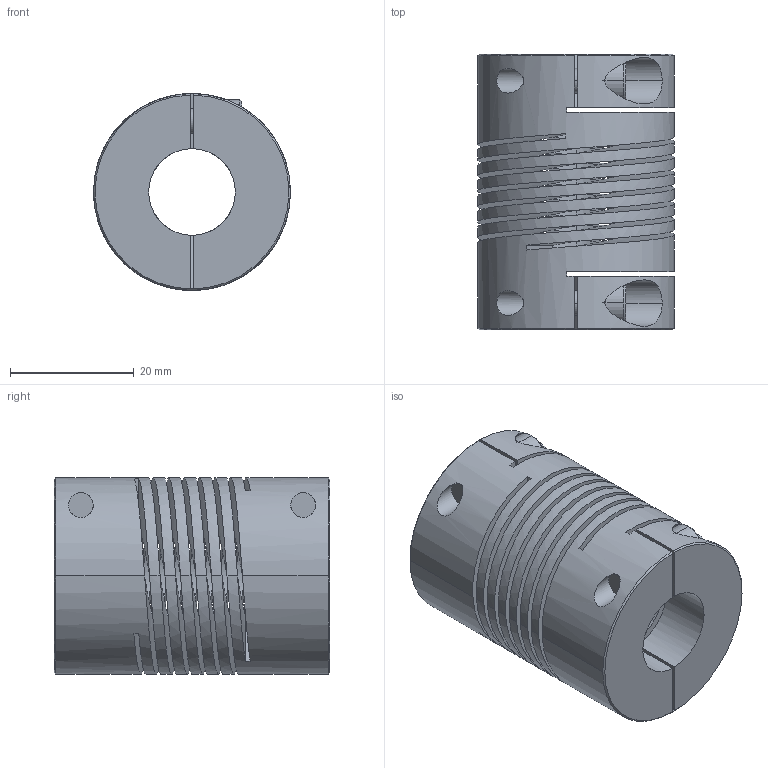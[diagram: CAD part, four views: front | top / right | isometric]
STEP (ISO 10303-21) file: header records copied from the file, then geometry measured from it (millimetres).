
FILE_DESCRIPTION((''),'2;1');
FILE_NAME('725_32','2006-12-05T',('Gary Melling'),(''),'PRO/ENGINEER BY PARAMETRIC TECHNOLOGY CORPORATION, 2006240','PRO/ENGINEER BY PARAMETRIC TECHNOLOGY CORPORATION, 2006240','');
FILE_SCHEMA(('CONFIG_CONTROL_DESIGN'));
Length unit declared in the file: millimetre
Products named in the file (1): 725_32
Bounding box: 31.8 x 44.5 x 31.8 mm (x, y, z)
Volume: 23432.4 mm3; surface area: 18066.7 mm2
Topology: 1 solids, 1 shells, 109 faces, 305 edges, 200 vertices
Faces by surface type: plane 50, cylinder 47, cone 6, bspline 6
Entity records: 5604 total; most frequent: CARTESIAN_POINT 2855, ORIENTED_EDGE 610, DIRECTION 493, EDGE_CURVE 305, VERTEX_POINT 200, AXIS2_PLACEMENT_3D 167, VECTOR 159, LINE 159
